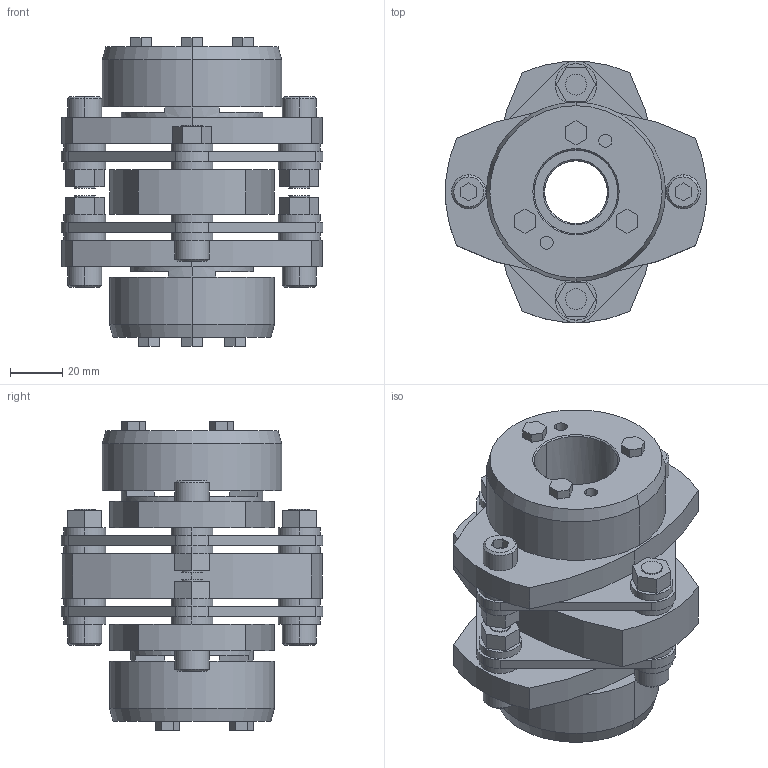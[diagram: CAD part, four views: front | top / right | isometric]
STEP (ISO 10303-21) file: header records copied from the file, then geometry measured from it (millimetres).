
FILE_DESCRIPTION((''),'2;1');
FILE_NAME('LCD-100T7-24×32.stp','2015-11-02T07:22:28',(''),(''),'AutoCAD STEP 2000i','AutoCAD 2000i',', , ');
FILE_SCHEMA(('CONFIG_CONTROL_DESIGN'));
Length unit declared in the file: millimetre
Products named in the file (8): LCD-100T7-25×30; 忣兜1; LC100T7-T030; LC100T7-T025-1; LC100T7-T025; LC100T7-T022-1; LC100T7-T022; LCD100-ITA
Assembly tree (7 placements, depth 2):
  LCD-100T7-25×30
    忣兜1
    LC100T7-T030
    LC100T7-T025-1
    LC100T7-T025
    LC100T7-T022-1
    LC100T7-T022
    LCD100-ITA
Bounding box: 100 x 99.93 x 118 mm (x, y, z)
Volume: 352421.4 mm3; surface area: 90076.2 mm2
Topology: 1 solids, 1 shells, 320 faces, 780 edges, 512 vertices
Faces by surface type: plane 176, cylinder 120, cone 24
Entity records: 9677 total; most frequent: DIRECTION 1716, CARTESIAN_POINT 1620, ORIENTED_EDGE 1560, EDGE_CURVE 780, AXIS2_PLACEMENT_3D 608, VERTEX_POINT 512, VECTOR 500, LINE 500
